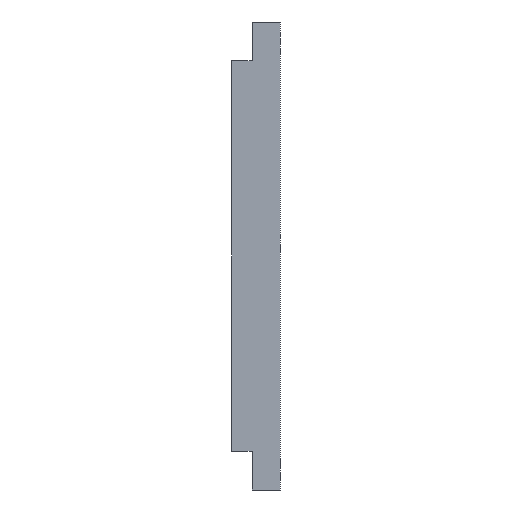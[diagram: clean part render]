
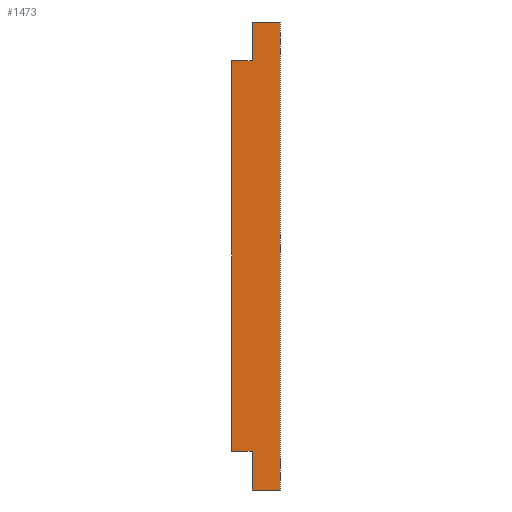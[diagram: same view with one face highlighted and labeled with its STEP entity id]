
A CAD part, left-side view. The second image highlights one B-rep face of the part: STEP entity #1473.
In plain terms, the highlighted planar face has unit normal (-1, 0, 0).
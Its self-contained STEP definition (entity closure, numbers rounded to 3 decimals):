
#47 = CARTESIAN_POINT ( 'NONE',  ( -200., 6., 50. ) ) ;
#73 = VECTOR ( 'NONE', #3676, 1000. ) ;
#84 = LINE ( 'NONE', #2696, #4358 ) ;
#90 = EDGE_CURVE ( 'NONE', #2881, #2673, #1265, .T. ) ;
#167 = VECTOR ( 'NONE', #1990, 1000. ) ;
#251 = CARTESIAN_POINT ( 'NONE',  ( -200., 6., 50. ) ) ;
#367 = ORIENTED_EDGE ( 'NONE', *, *, #90, .F. ) ;
#484 = ORIENTED_EDGE ( 'NONE', *, *, #1418, .T. ) ;
#486 = EDGE_CURVE ( 'NONE', #981, #1669, #4508, .T. ) ;
#513 = LINE ( 'NONE', #2873, #3399 ) ;
#527 = DIRECTION ( 'NONE',  ( 0., -1., 0. ) ) ;
#586 = ORIENTED_EDGE ( 'NONE', *, *, #4292, .F. ) ;
#630 = DIRECTION ( 'NONE',  ( 0., 0., -1. ) ) ;
#655 = CARTESIAN_POINT ( 'NONE',  ( -200., 6., 50. ) ) ;
#740 = CARTESIAN_POINT ( 'NONE',  ( -200., 6., 50. ) ) ;
#771 = EDGE_CURVE ( 'NONE', #1944, #3325, #1856, .T. ) ;
#772 = DIRECTION ( 'NONE',  ( 0., -1., 0. ) ) ;
#837 = CARTESIAN_POINT ( 'NONE',  ( -200., 10.3, 41.7 ) ) ;
#871 = VERTEX_POINT ( 'NONE', #655 ) ;
#950 = DIRECTION ( 'NONE',  ( 0., 0., 1. ) ) ;
#981 = VERTEX_POINT ( 'NONE', #4816 ) ;
#1265 = LINE ( 'NONE', #837, #2091 ) ;
#1405 = CARTESIAN_POINT ( 'NONE',  ( -200., 6., -41.7 ) ) ;
#1418 = EDGE_CURVE ( 'NONE', #2881, #1669, #3457, .T. ) ;
#1473 = ADVANCED_FACE ( 'NONE', ( #2268 ), #1724, .F. ) ;
#1554 = DIRECTION ( 'NONE',  ( 0., 0., 1. ) ) ;
#1574 = CARTESIAN_POINT ( 'NONE',  ( -200., 10.3, 41.7 ) ) ;
#1645 = LINE ( 'NONE', #740, #3899 ) ;
#1659 = EDGE_CURVE ( 'NONE', #2673, #3456, #513, .T. ) ;
#1669 = VERTEX_POINT ( 'NONE', #1405 ) ;
#1724 = PLANE ( 'NONE',  #2311 ) ;
#1772 = CARTESIAN_POINT ( 'NONE',  ( -200., 10.3, -41.7 ) ) ;
#1856 = LINE ( 'NONE', #3507, #167 ) ;
#1944 = VERTEX_POINT ( 'NONE', #4550 ) ;
#1979 = ORIENTED_EDGE ( 'NONE', *, *, #771, .T. ) ;
#1990 = DIRECTION ( 'NONE',  ( 0., 0., 1. ) ) ;
#2091 = VECTOR ( 'NONE', #3846, 1000. ) ;
#2230 = EDGE_LOOP ( 'NONE', ( #1979, #3703, #586, #3478, #367, #484, #3412, #3917 ) ) ;
#2268 = FACE_OUTER_BOUND ( 'NONE', #2230, .T. ) ;
#2311 = AXIS2_PLACEMENT_3D ( 'NONE', #251, #2484, #630 ) ;
#2338 = VECTOR ( 'NONE', #1554, 1000. ) ;
#2457 = DIRECTION ( 'NONE',  ( 0., -1., 0. ) ) ;
#2484 = DIRECTION ( 'NONE',  ( 1., 0., 0. ) ) ;
#2673 = VERTEX_POINT ( 'NONE', #1574 ) ;
#2696 = CARTESIAN_POINT ( 'NONE',  ( -200., 6., -50. ) ) ;
#2873 = CARTESIAN_POINT ( 'NONE',  ( -200., 10.3, 41.7 ) ) ;
#2881 = VERTEX_POINT ( 'NONE', #3934 ) ;
#3205 = CARTESIAN_POINT ( 'NONE',  ( -200., 6., 50. ) ) ;
#3325 = VERTEX_POINT ( 'NONE', #3832 ) ;
#3399 = VECTOR ( 'NONE', #2457, 1000. ) ;
#3412 = ORIENTED_EDGE ( 'NONE', *, *, #486, .F. ) ;
#3456 = VERTEX_POINT ( 'NONE', #3492 ) ;
#3457 = LINE ( 'NONE', #1772, #73 ) ;
#3478 = ORIENTED_EDGE ( 'NONE', *, *, #1659, .F. ) ;
#3492 = CARTESIAN_POINT ( 'NONE',  ( -200., 6., 41.7 ) ) ;
#3505 = VECTOR ( 'NONE', #950, 1000. ) ;
#3507 = CARTESIAN_POINT ( 'NONE',  ( -200., 0., 50. ) ) ;
#3676 = DIRECTION ( 'NONE',  ( 0., -1., 0. ) ) ;
#3703 = ORIENTED_EDGE ( 'NONE', *, *, #4141, .F. ) ;
#3832 = CARTESIAN_POINT ( 'NONE',  ( -200., 0., 50. ) ) ;
#3846 = DIRECTION ( 'NONE',  ( 0., 0., 1. ) ) ;
#3899 = VECTOR ( 'NONE', #772, 1000. ) ;
#3917 = ORIENTED_EDGE ( 'NONE', *, *, #4607, .T. ) ;
#3934 = CARTESIAN_POINT ( 'NONE',  ( -200., 10.3, -41.7 ) ) ;
#4141 = EDGE_CURVE ( 'NONE', #871, #3325, #1645, .T. ) ;
#4292 = EDGE_CURVE ( 'NONE', #3456, #871, #4485, .T. ) ;
#4358 = VECTOR ( 'NONE', #527, 1000. ) ;
#4485 = LINE ( 'NONE', #47, #2338 ) ;
#4508 = LINE ( 'NONE', #3205, #3505 ) ;
#4550 = CARTESIAN_POINT ( 'NONE',  ( -200., 0., -50. ) ) ;
#4607 = EDGE_CURVE ( 'NONE', #981, #1944, #84, .T. ) ;
#4816 = CARTESIAN_POINT ( 'NONE',  ( -200., 6., -50. ) ) ;
